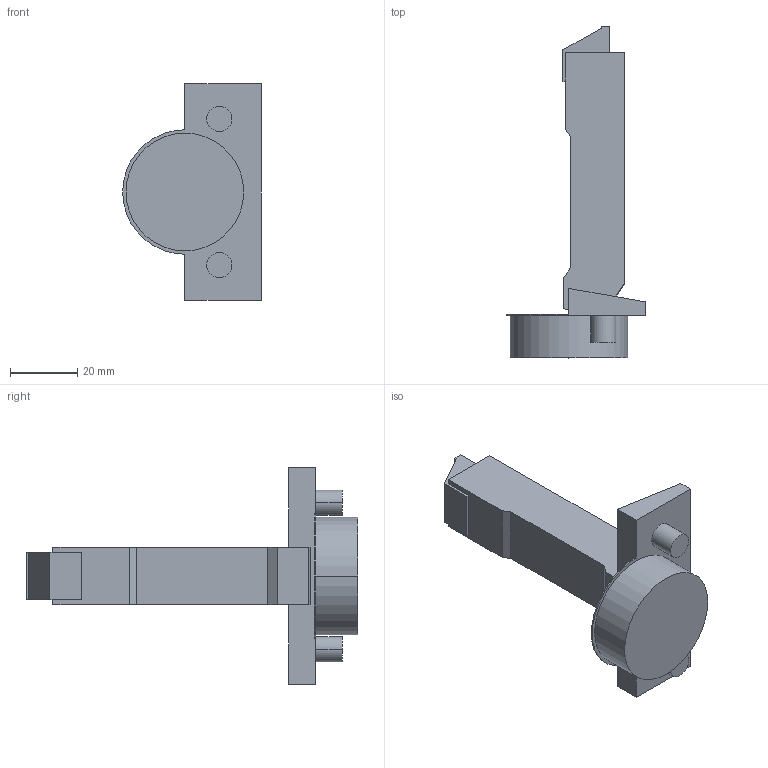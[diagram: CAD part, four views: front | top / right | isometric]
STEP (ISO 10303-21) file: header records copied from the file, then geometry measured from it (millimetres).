
FILE_DESCRIPTION (( 'STEP AP214' ), '1' );
FILE_NAME ('Scharnier TT Impresso 95° GB_BB, K03.step', '2010-12-06T09:51:52', ( 'grass' ), ( '' ), 'SwSTEP 2.0', 'SolidWorks 2010', '' );
FILE_SCHEMA (( 'AUTOMOTIVE_DESIGN' ));
Length unit declared in the file: millimetre
Products named in the file (1): Scharnier TT Impresso 95° GB_BB, K03
Bounding box: 41.25 x 98.7 x 64.5 mm (x, y, z)
Volume: 42985.1 mm3; surface area: 12287.9 mm2
Topology: 1 solids, 3 shells, 56 faces, 132 edges, 88 vertices
Faces by surface type: plane 39, cylinder 17
Entity records: 1640 total; most frequent: DIRECTION 280, CARTESIAN_POINT 277, ORIENTED_EDGE 264, EDGE_CURVE 132, LINE 98, VECTOR 98, AXIS2_PLACEMENT_3D 91, VERTEX_POINT 88
